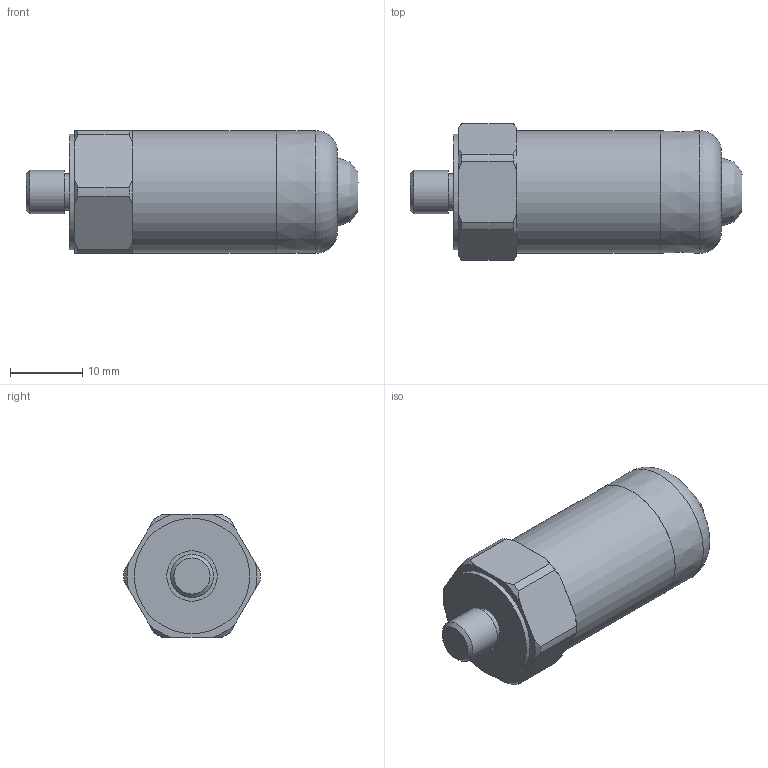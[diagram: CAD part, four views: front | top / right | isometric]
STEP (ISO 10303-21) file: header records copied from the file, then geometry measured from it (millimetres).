
FILE_DESCRIPTION(/* description */ (''),/* implementation_level */ '2;1');
FILE_NAME(/* name */ 'Z:\Engineering\Drawings\3D Library\Assemblies\Website\Premium Top\Compact\HS-170 Top Braided\HS-1700100206.stp',/* time_stamp */ '2023-03-16T16:50:59+00:00',/* author */ ('Ricardo.Peneda'),/* organization */ (''),/* preprocessor_version */ 'ST-DEVELOPER v18.1',/* originating_system */ 'Autodesk Inventor 2021',/* authorisation */ '');
FILE_SCHEMA (('AUTOMOTIVE_DESIGN { 1 0 10303 214 3 1 1 }'));
Length unit declared in the file: inch
Products named in the file (1): HS-1700100206_Shrinkwrap_1
Bounding box: 46.05 x 19 x 17.01 mm (x, y, z)
Volume: 4652.1 mm3; surface area: 4675.2 mm2
Topology: 3 solids, 3 shells, 69 faces, 184 edges, 126 vertices
Faces by surface type: cone 28, plane 23, cylinder 16, torus 1, bspline 1
Full cylindrical faces by diameter (mm): 5 x2, 5.359 x1, 6 x1, 6.35 x1, 7 x2, 15.05 x1, 16 x1, 17 x1
Entity records: 2328 total; most frequent: CARTESIAN_POINT 453, DIRECTION 400, ORIENTED_EDGE 366, EDGE_CURVE 183, AXIS2_PLACEMENT_3D 172, VERTEX_POINT 126, CIRCLE 103, EDGE_LOOP 77
